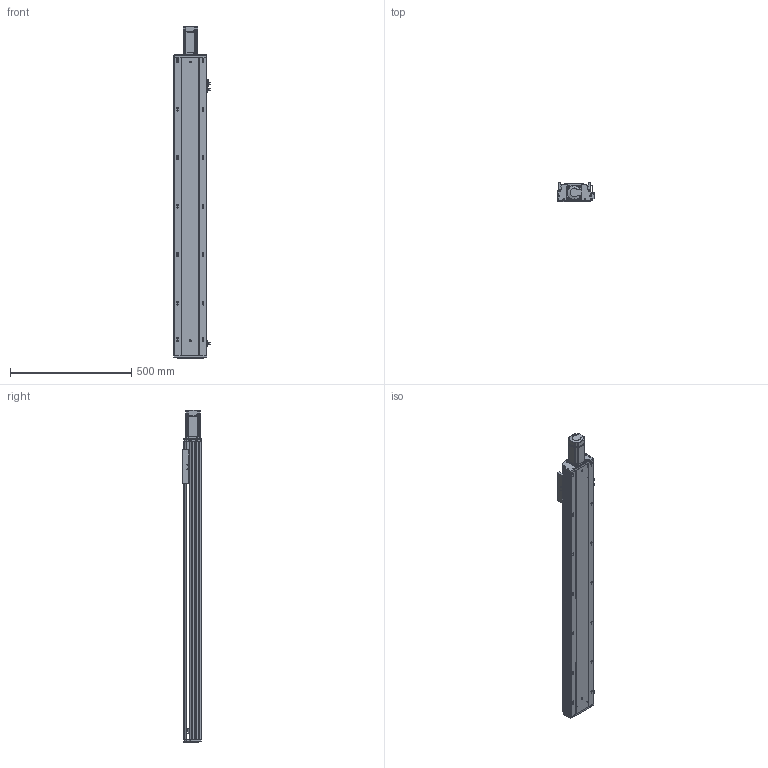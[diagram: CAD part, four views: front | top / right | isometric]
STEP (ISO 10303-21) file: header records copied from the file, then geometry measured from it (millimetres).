
FILE_DESCRIPTION (( 'STEP AP203' ), '1' );
FILE_NAME ('RY140Q-L2010-1000-MK.SLDASM_1000.step', '2021-05-27T07:34:21', ( '盈信电脑' ), ( '东莞市道滘镇水果街19号' ), 'SwSTEP 2.0', 'SolidWorks 2016', '' );
FILE_SCHEMA (( 'CONFIG_CONTROL_DESIGN' ));
Length unit declared in the file: millimetre
Products named in the file (13): RY120外置感应片(140共用）; 滅袉蝶18-10; RY140Q萇儂傷盓傅釱FK12(80.5酗M5); 滅袉蝶18-15; RY140Q-1000-MK倰第奻裔啣_1000; RY140ヶ裔啣; 侂狟400W侜督萇儂; 15; RY140綴裔啣; RY140Q臏賑輸(20佪裝-J; RY140Q-L2010-1000-MK.SLDASM_1000; 覜茼ん672; RY140Q-1000-MK倰第菁釱_1000
Assembly tree (15 placements, depth 3):
  RY140Q-L2010-1000-MK.SLDASM_1000
    RY140Q-1000-MK倰第菁釱_1000
    RY140Q臏賑輸(20佪裝-J
    RY140Q-1000-MK倰第奻裔啣_1000
    RY140ヶ裔啣
    侂狟400W侜督萇儂
      15
    RY140綴裔啣
    覜茼ん672  x3
    RY120外置感应片(140共用）
    RY140Q萇儂傷盓傅釱FK12(80.5酗M5)
    滅袉蝶18-10
    滅袉蝶18-15  x2
Bounding box: 148.7 x 78 x 1369.5 mm (x, y, z)
Volume: 3835349.4 mm3; surface area: 1404887.1 mm2
Topology: 14 solids, 14 shells, 2126 faces, 5873 edges, 3747 vertices
Faces by surface type: plane 1078, cylinder 752, cone 211, bspline 85
Entity records: 70017 total; most frequent: CARTESIAN_POINT 16754, ORIENTED_EDGE 11006, DIRECTION 10495, EDGE_CURVE 5503, VERTEX_POINT 3607, VECTOR 3525, LINE 3525, AXIS2_PLACEMENT_3D 3485
